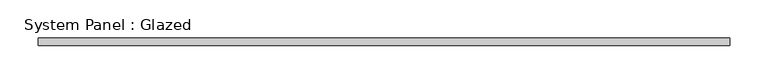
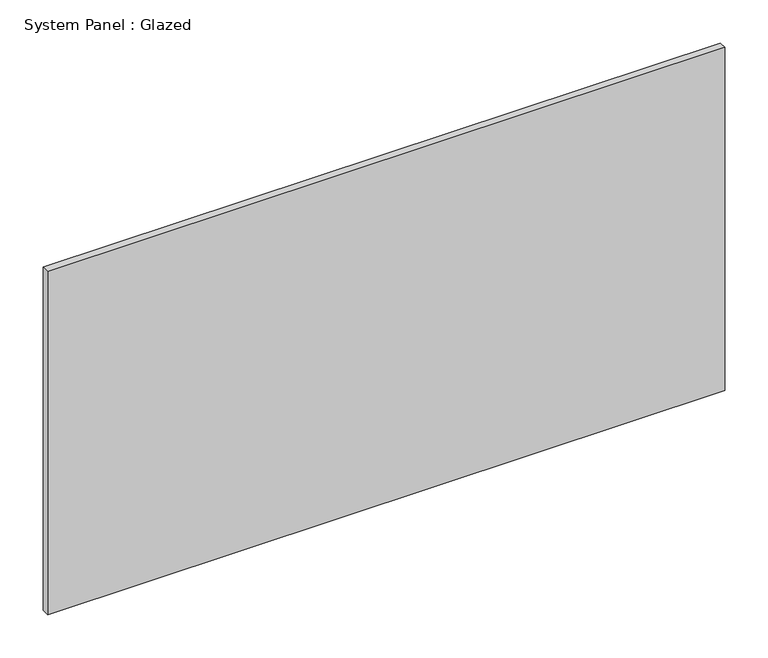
"""IFC4 building model written with IfcOpenShell, lengths in millimetres: plate geometry, System Panel : Glazed."""

from ifc_helpers import new_model, si_unit, origin, origin_with_axes, place, context, project, spatial, polyline, outline, extrude, source, transform, mapped, element, save


def system_panel_glazed_2f7b6a1d(model_context):
    return source(origin(), model_context, "Body", "SweptSolid", [
        extrude(outline(polyline([(452.6021733, -5.0), (-452.6021733, -5.0), (-452.6021733, 5.0), (452.6021733, 5.0), (452.6021733, -5.0)])), origin_with_axes(), (0.0, 0.0, 1.0), 485.0),
    ])


if __name__ == "__main__":
    model = new_model("IFC4")
    model_context = context("Model", 3, world=origin())
    ifc_project = project(units=[si_unit("LENGTHUNIT", "METRE", prefix="MILLI")], contexts=[model_context])
    site = spatial("IfcSite", under=ifc_project)
    building = spatial("IfcBuilding", under=site)
    placement = place(None, origin())
    system_panel_glazed_shape = system_panel_glazed_2f7b6a1d(model_context)
    element("IfcPlate", 1, ObjectType="System Panel : Glazed", at=placement, inside=building, context=model_context, shape_type="MappedRepresentation", body=[
        mapped(system_panel_glazed_shape, transform((0.0, 0.0, 0.0), x_axis=(1.0, 0.0, 0.0), y_axis=(0.0, 1.0, 0.0), z_axis=(0.0, 0.0, 1.0))),
    ])
    save(model, "model.ifc")
